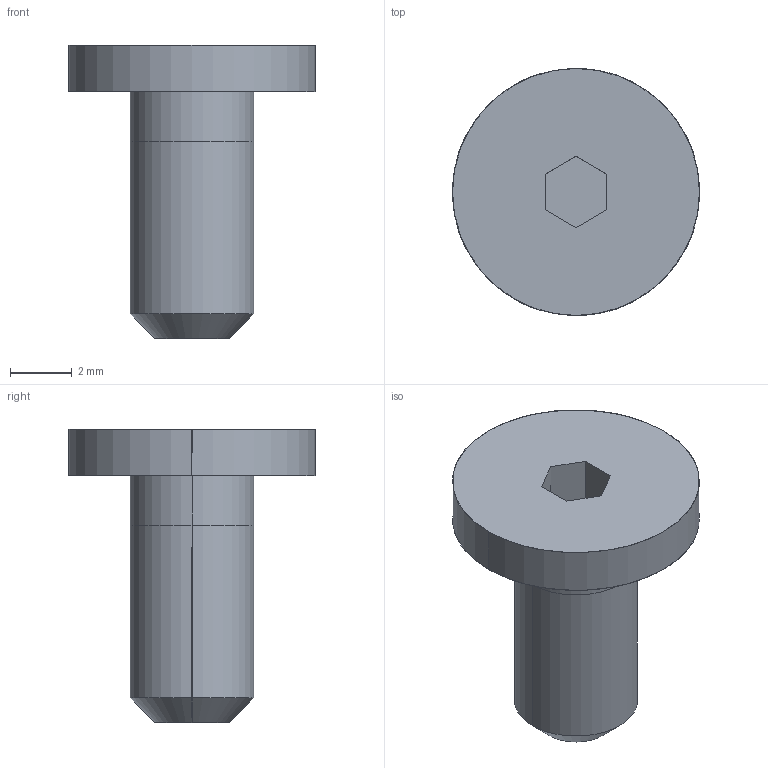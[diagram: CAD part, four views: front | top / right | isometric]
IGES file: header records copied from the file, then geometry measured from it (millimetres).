
Global section: file name: E:\UnigraphicsGraphicData\MISUMI_PRESS-PARTS\IGES\3d_cbss4-8_03490_r00.igs; native system: NX V5.0; preprocessor: UGS NX IGES V5.0; author: MISUMI; date: 20110105.160202; units: millimetre
Bounding box: 8 x 8 x 9.5 mm (x, y, z)
Surface area: 249.7 mm2 (no closed solid volume)
Topology: 0 solids, 0 shells, 18 faces, 100 edges, 100 vertices
Faces by surface type: bspline 18
